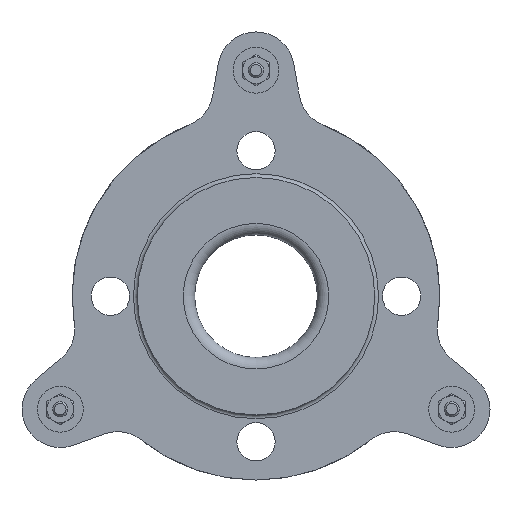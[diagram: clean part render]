
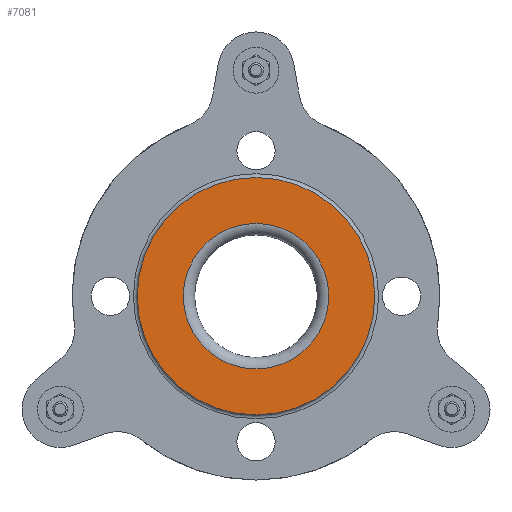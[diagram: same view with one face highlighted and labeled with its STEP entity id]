
A CAD part, left-side view. The second image highlights one B-rep face of the part: STEP entity #7081.
In plain terms, the highlighted planar face has unit normal (-1, 0, 0).
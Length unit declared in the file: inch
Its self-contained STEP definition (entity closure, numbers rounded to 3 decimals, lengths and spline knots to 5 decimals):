
#844=PLANE('',#7924);
#1531=FACE_BOUND('',#2599,.T.);
#1947=FACE_OUTER_BOUND('',#2598,.T.);
#2598=EDGE_LOOP('',(#6123));
#2599=EDGE_LOOP('',(#6124));
#3093=CIRCLE('',#7923,1.9375);
#3094=CIRCLE('',#7925,1.1875);
#3650=VERTEX_POINT('',#12398);
#3651=VERTEX_POINT('',#12401);
#4492=EDGE_CURVE('',#3650,#3650,#3093,.T.);
#4493=EDGE_CURVE('',#3651,#3651,#3094,.T.);
#6123=ORIENTED_EDGE('',*,*,#4492,.T.);
#6124=ORIENTED_EDGE('',*,*,#4493,.F.);
#7081=ADVANCED_FACE('',(#1947,#1531),#844,.T.);
#7923=AXIS2_PLACEMENT_3D('',#12399,#9696,#9697);
#7924=AXIS2_PLACEMENT_3D('',#12400,#9698,#9699);
#7925=AXIS2_PLACEMENT_3D('',#12402,#9700,#9701);
#9696=DIRECTION('center_axis',(-1.,0.,0.));
#9697=DIRECTION('ref_axis',(0.,-1.,0.));
#9698=DIRECTION('center_axis',(-1.,0.,0.));
#9699=DIRECTION('ref_axis',(0.,-1.,0.));
#9700=DIRECTION('center_axis',(-1.,0.,0.));
#9701=DIRECTION('ref_axis',(0.,-1.,0.));
#12398=CARTESIAN_POINT('',(-1.1875,0.,1.9375));
#12399=CARTESIAN_POINT('Origin',(-1.1875,0.,0.));
#12400=CARTESIAN_POINT('Origin',(-1.1875,0.,1.1875));
#12401=CARTESIAN_POINT('',(-1.1875,0.,1.1875));
#12402=CARTESIAN_POINT('Origin',(-1.1875,0.,0.));
